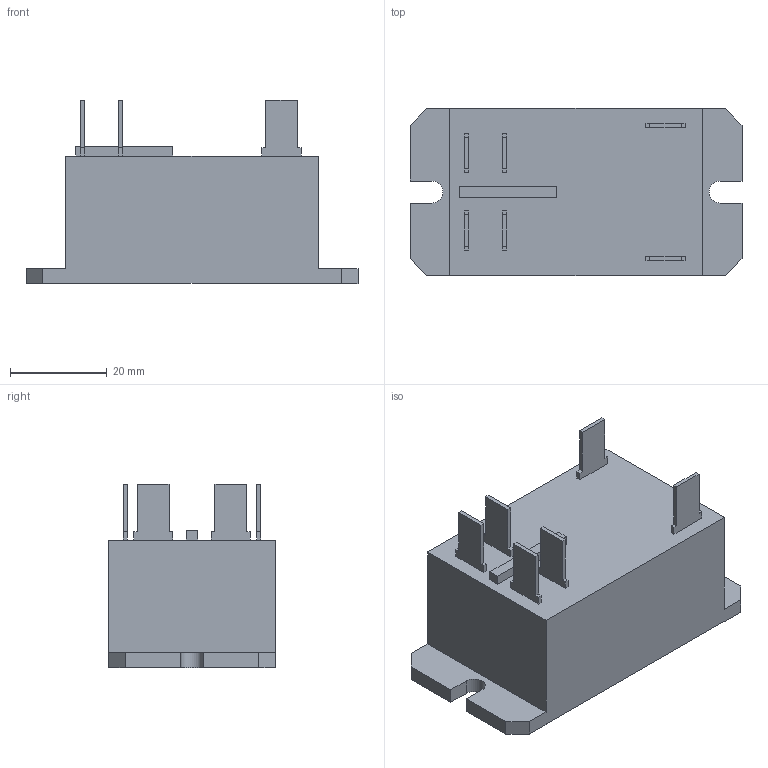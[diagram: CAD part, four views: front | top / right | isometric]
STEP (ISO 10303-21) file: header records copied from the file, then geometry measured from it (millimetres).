
FILE_DESCRIPTION((''),'2;1');
FILE_NAME('C-6-1393211-3','2021-09-24T05:59:05',('workeradm'),('TE Connectivity Ltd.'),'CREO PARAMETRIC BY PTC INC, 2021072','CREO PARAMETRIC BY PTC INC, 2021072','');
FILE_SCHEMA(('AUTOMOTIVE_DESIGN { 1 0 10303 214 1 1 1 1 }'));
Length unit declared in the file: millimetre
Products named in the file (1): C-6-1393211-3
Bounding box: 68.58 x 34.54 x 37.97 mm (x, y, z)
Volume: 49235.4 mm3; surface area: 10440 mm2
Topology: 1 solids, 1 shells, 85 faces, 228 edges, 152 vertices
Faces by surface type: plane 83, cylinder 2
Entity records: 2782 total; most frequent: CARTESIAN_POINT 467, ORIENTED_EDGE 456, DIRECTION 402, EDGE_CURVE 228, VECTOR 224, LINE 224, VERTEX_POINT 152, COLOUR_RGB 126
